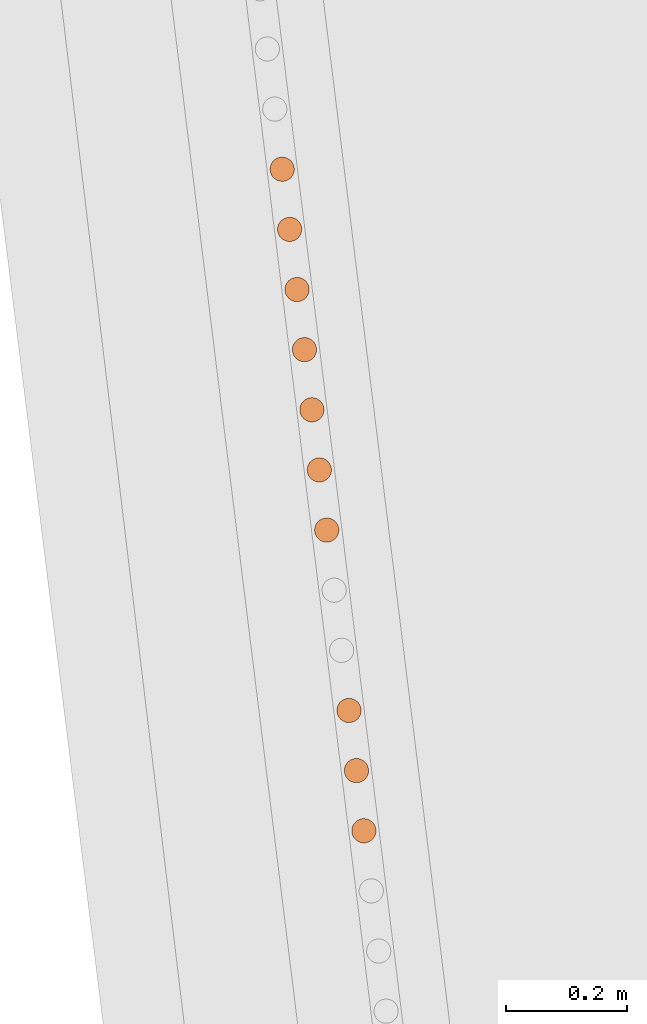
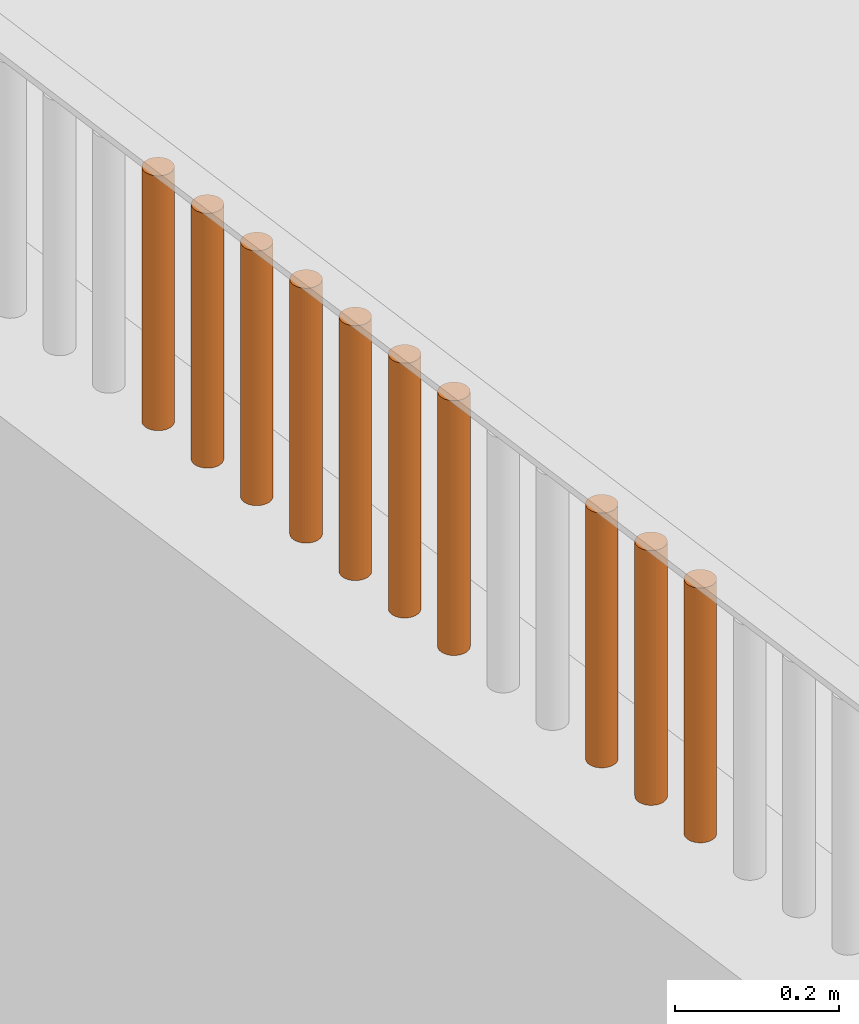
# One storey, part 127 of 1809: 10 proxies, 1 element without a shape of its own.
"""IFC2X3 building model written with IfcOpenShell, lengths in millimetres."""

from ifc_helpers import new_model, entity, si_unit, converted_unit, derived_unit, money_unit, direction, frame, origin_with_axes, place, context, subcontext, project, spatial, faceted_brep, source, transform, mapped, material, type_object, element, aggregate, save


model = new_model("IFC2X3")

# Units and contexts
model_context = context("Model", 3, precision=0.01, world=origin_with_axes(), true_north=direction((0.0, 1.0)))
body_context = subcontext(model_context, "Body", "Model", "MODEL_VIEW")
ifc_project = project(units=[si_unit("LENGTHUNIT", "METRE", prefix="MILLI"), si_unit("AREAUNIT", "SQUARE_METRE"), si_unit("VOLUMEUNIT", "CUBIC_METRE"), converted_unit("PLANEANGLEUNIT", "DEGREE", entity("IfcPlaneAngleMeasure", 0.0174532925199), si_unit("PLANEANGLEUNIT", "RADIAN"), dimensions=[0, 0, 0, 0, 0, 0, 0]), si_unit("SOLIDANGLEUNIT", "STERADIAN"), money_unit("EUR"), converted_unit("TIMEUNIT", "Year", entity("IfcTimeMeasure", 31556926.0), si_unit("TIMEUNIT", "SECOND"), dimensions=[0, 0, 1, 0, 0, 0, 0]), si_unit("MASSUNIT", "GRAM", prefix="KILO"), si_unit("THERMODYNAMICTEMPERATUREUNIT", "DEGREE_CELSIUS"), si_unit("LUMINOUSINTENSITYUNIT", "LUMEN"), si_unit("ENERGYUNIT", "JOULE", prefix="MEGA"), derived_unit("THERMALCONDUCTANCEUNIT", [(si_unit("POWERUNIT", "WATT"), 1), (si_unit("LENGTHUNIT", "METRE"), -1), (si_unit("THERMODYNAMICTEMPERATUREUNIT", "KELVIN"), -1)]), derived_unit("SPECIFICHEATCAPACITYUNIT", [(si_unit("ENERGYUNIT", "JOULE"), 1), (si_unit("MASSUNIT", "GRAM", prefix="KILO"), -1), (si_unit("THERMODYNAMICTEMPERATUREUNIT", "KELVIN"), -1)]), derived_unit("MASSDENSITYUNIT", [(si_unit("MASSUNIT", "GRAM", prefix="KILO"), 1), (si_unit("VOLUMEUNIT", "CUBIC_METRE"), -1)])], contexts=[model_context])

# Site, building, storey
site_placement = place(None, origin_with_axes())
site = spatial("IfcSite", under=ifc_project, at=site_placement, Name="Politse- ja Piirivalveameti ning Päästeameti ühishoone", CompositionType="ELEMENT")
building_placement = place(site_placement, origin_with_axes())
building = spatial("IfcBuilding", under=site, at=building_placement, Name="Politse- ja Piirivalveameti ning Päästeameti ühishoone", CompositionType="ELEMENT")
storey_placement = place(building_placement, origin_with_axes())
storey = spatial("IfcBuildingStorey", under=building, at=storey_placement, Name="Esimene korrus", CompositionType="ELEMENT", Elevation=0.0)

# Proxies
building_element_proxy_type_1 = type_object("IfcBuildingElementProxyType", Name="Railing Type", PredefinedType="NOTDEFINED")
proxy_1_placement = place(storey_placement, frame((-18956.5522504, -53688.4757966, 2100.0), z_axis=(0.0, 0.0, 1.0), x_axis=(1.0, 0.0, 0.0)))
proxy_1 = element("IfcBuildingElementProxy", 1, at=proxy_1_placement, inside=storey, type_object=building_element_proxy_type_1, Name="PIIRDEAED")
ifc_material = material(Name="ET-06_Teras - Konstruktsioon")
building_element_proxy_type_2 = type_object("IfcBuildingElementProxyType", Name="IfcBuildingElementProxy", PredefinedType="NOTDEFINED")
shared_shape_1 = source(origin_with_axes(), body_context, "Body", "Brep", [
    faceted_brep([(0.0, -20.0, 0.0), (3.47296355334, -19.6961550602, 0.0), (3.47296355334, -19.6961550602, 380.000012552), (0.0, -20.0, 380.000012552), (-3.47296355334, -19.6961550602, 0.0), (-6.84040286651, -18.7938524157, 0.0), (-10.0, -17.3205080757, 0.0), (-12.8557521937, -15.3208888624, 0.0), (-15.3208888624, -12.8557521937, 0.0), (-17.3205080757, -10.0, 0.0), (-18.7938524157, -6.84040286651, 0.0), (-19.6961550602, -3.47296355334, 0.0), (-20.0, 0.0, 0.0), (-19.6961550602, 3.47296355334, 0.0), (-18.7938524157, 6.84040286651, 0.0), (-17.3205080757, 10.0, 0.0), (-15.3208888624, 12.8557521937, 0.0), (-12.8557521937, 15.3208888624, 0.0), (-10.0, 17.3205080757, 0.0), (-6.84040286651, 18.7938524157, 0.0), (-3.47296355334, 19.6961550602, 0.0), (0.0, 20.0, 0.0), (3.47296355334, 19.6961550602, 0.0), (6.84040286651, 18.7938524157, 0.0), (10.0, 17.3205080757, 0.0), (12.8557521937, 15.3208888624, 0.0), (15.3208888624, 12.8557521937, 0.0), (17.3205080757, 10.0, 0.0), (18.7938524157, 6.84040286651, 0.0), (19.6961550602, 3.47296355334, 0.0), (20.0, 0.0, 0.0), (19.6961550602, -3.47296355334, 0.0), (18.7938524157, -6.84040286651, 0.0), (17.3205080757, -10.0, 0.0), (15.3208888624, -12.8557521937, 0.0), (12.8557521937, -15.3208888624, 0.0), (10.0, -17.3205080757, 0.0), (6.84040286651, -18.7938524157, 0.0), (6.84040286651, -18.7938524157, 380.000012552), (10.0, -17.3205080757, 380.000012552), (12.8557521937, -15.3208888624, 380.000012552), (15.3208888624, -12.8557521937, 380.000012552), (17.3205080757, -10.0, 380.000012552), (18.7938524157, -6.84040286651, 380.000012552), (19.6961550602, -3.47296355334, 380.000012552), (20.0, 0.0, 380.000012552), (19.6961550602, 3.47296355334, 380.000012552), (18.7938524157, 6.84040286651, 380.000012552), (17.3205080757, 10.0, 380.000012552), (15.3208888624, 12.8557521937, 380.000012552), (12.8557521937, 15.3208888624, 380.000012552), (10.0, 17.3205080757, 380.000012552), (6.84040286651, 18.7938524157, 380.000012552), (3.47296355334, 19.6961550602, 380.000012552), (0.0, 20.0, 380.000012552), (-3.47296355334, 19.6961550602, 380.000012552), (-6.84040286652, 18.7938524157, 380.000012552), (-10.0, 17.3205080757, 380.000012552), (-12.8557521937, 15.3208888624, 380.000012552), (-15.3208888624, 12.8557521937, 380.000012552), (-17.3205080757, 10.0, 380.000012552), (-18.7938524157, 6.84040286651, 380.000012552), (-19.6961550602, 3.47296355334, 380.000012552), (-20.0, 0.0, 380.000012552), (-19.6961550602, -3.47296355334, 380.000012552), (-18.7938524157, -6.84040286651, 380.000012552), (-17.3205080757, -10.0, 380.000012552), (-15.3208888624, -12.8557521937, 380.000012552), (-12.8557521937, -15.3208888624, 380.000012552), (-10.0, -17.3205080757, 380.000012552), (-6.84040286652, -18.7938524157, 380.000012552), (-3.47296355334, -19.6961550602, 380.000012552)], [[[0, 1, 2, 3]], [[0, 4, 5, 6, 7, 8, 9, 10, 11, 12, 13, 14, 15, 16, 17, 18, 19, 20, 21, 22, 23, 24, 25, 26, 27, 28, 29, 30, 31, 32, 33, 34, 35, 36, 37, 1]], [[1, 37, 38, 2]], [[3, 2, 38, 39, 40, 41, 42, 43, 44, 45, 46, 47, 48, 49, 50, 51, 52, 53, 54, 55, 56, 57, 58, 59, 60, 61, 62, 63, 64, 65, 66, 67, 68, 69, 70, 71]], [[4, 0, 3, 71]], [[5, 4, 71, 70]], [[6, 5, 70, 69]], [[7, 6, 69, 68]], [[8, 7, 68, 67]], [[9, 8, 67, 66]], [[10, 9, 66, 65]], [[11, 10, 65, 64]], [[12, 11, 64, 63]], [[13, 12, 63, 62]], [[14, 13, 62, 61]], [[15, 14, 61, 60]], [[16, 15, 60, 59]], [[17, 16, 59, 58]], [[18, 17, 58, 57]], [[19, 18, 57, 56]], [[20, 19, 56, 55]], [[21, 20, 55, 54]], [[22, 21, 54, 53]], [[23, 22, 53, 52]], [[24, 23, 52, 51]], [[25, 24, 51, 50]], [[26, 25, 50, 49]], [[27, 26, 49, 48]], [[28, 27, 48, 47]], [[29, 28, 47, 46]], [[30, 29, 46, 45]], [[31, 30, 45, 44]], [[32, 31, 44, 43]], [[33, 32, 43, 42]], [[34, 33, 42, 41]], [[35, 34, 41, 40]], [[36, 35, 40, 39]], [[37, 36, 39, 38]]]),
])
proxy_2_placement = place(proxy_1_placement, frame((-4024.53611984, 31770.8578327, -1.25517001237e-05), z_axis=(0.0, 0.0, 1.0), x_axis=(1.0, 0.0, 0.0)))
proxy_2 = element("IfcBuildingElementProxy", 2, at=proxy_2_placement, type_object=building_element_proxy_type_2, material=ifc_material, Name="BALUSTER - 001", context=body_context, shape_type="MappedRepresentation", body=[
    mapped(shared_shape_1, transform((0.0, 0.0, 0.0), x_axis=(0.992468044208, 0.122503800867, 0.0), y_axis=(-0.122503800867, 0.992468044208, 0.0), z_axis=(0.0, 0.0, 1.0))),
])
shared_shape_2 = source(origin_with_axes(), body_context, "Body", "Brep", [
    faceted_brep([(0.0, -20.0, 0.0), (3.47296355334, -19.6961550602, 0.0), (3.47296355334, -19.6961550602, 380.000012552), (0.0, -20.0, 380.000012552), (-3.47296355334, -19.6961550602, 0.0), (-6.84040286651, -18.7938524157, 0.0), (-10.0, -17.3205080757, 0.0), (-12.8557521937, -15.3208888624, 0.0), (-15.3208888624, -12.8557521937, 0.0), (-17.3205080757, -10.0, 0.0), (-18.7938524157, -6.84040286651, 0.0), (-19.6961550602, -3.47296355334, 0.0), (-20.0, 0.0, 0.0), (-19.6961550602, 3.47296355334, 0.0), (-18.7938524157, 6.84040286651, 0.0), (-17.3205080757, 10.0, 0.0), (-15.3208888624, 12.8557521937, 0.0), (-12.8557521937, 15.3208888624, 0.0), (-10.0, 17.3205080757, 0.0), (-6.84040286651, 18.7938524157, 0.0), (-3.47296355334, 19.6961550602, 0.0), (0.0, 20.0, 0.0), (3.47296355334, 19.6961550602, 0.0), (6.84040286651, 18.7938524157, 0.0), (10.0, 17.3205080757, 0.0), (12.8557521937, 15.3208888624, 0.0), (15.3208888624, 12.8557521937, 0.0), (17.3205080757, 10.0, 0.0), (18.7938524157, 6.84040286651, 0.0), (19.6961550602, 3.47296355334, 0.0), (20.0, 0.0, 0.0), (19.6961550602, -3.47296355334, 0.0), (18.7938524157, -6.84040286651, 0.0), (17.3205080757, -10.0, 0.0), (15.3208888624, -12.8557521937, 0.0), (12.8557521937, -15.3208888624, 0.0), (10.0, -17.3205080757, 0.0), (6.84040286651, -18.7938524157, 0.0), (6.84040286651, -18.7938524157, 380.000012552), (10.0, -17.3205080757, 380.000012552), (12.8557521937, -15.3208888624, 380.000012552), (15.3208888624, -12.8557521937, 380.000012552), (17.3205080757, -10.0, 380.000012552), (18.7938524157, -6.84040286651, 380.000012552), (19.6961550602, -3.47296355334, 380.000012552), (20.0, 0.0, 380.000012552), (19.6961550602, 3.47296355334, 380.000012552), (18.7938524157, 6.84040286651, 380.000012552), (17.3205080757, 10.0, 380.000012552), (15.3208888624, 12.8557521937, 380.000012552), (12.8557521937, 15.3208888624, 380.000012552), (10.0, 17.3205080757, 380.000012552), (6.84040286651, 18.7938524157, 380.000012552), (3.47296355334, 19.6961550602, 380.000012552), (0.0, 20.0, 380.000012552), (-3.47296355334, 19.6961550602, 380.000012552), (-6.84040286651, 18.7938524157, 380.000012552), (-10.0, 17.3205080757, 380.000012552), (-12.8557521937, 15.3208888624, 380.000012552), (-15.3208888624, 12.8557521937, 380.000012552), (-17.3205080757, 10.0, 380.000012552), (-18.7938524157, 6.84040286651, 380.000012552), (-19.6961550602, 3.47296355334, 380.000012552), (-20.0, 0.0, 380.000012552), (-19.6961550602, -3.47296355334, 380.000012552), (-18.7938524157, -6.84040286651, 380.000012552), (-17.3205080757, -10.0, 380.000012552), (-15.3208888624, -12.8557521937, 380.000012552), (-12.8557521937, -15.3208888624, 380.000012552), (-10.0, -17.3205080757, 380.000012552), (-6.84040286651, -18.7938524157, 380.000012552), (-3.47296355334, -19.6961550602, 380.000012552)], [[[0, 1, 2, 3]], [[0, 4, 5, 6, 7, 8, 9, 10, 11, 12, 13, 14, 15, 16, 17, 18, 19, 20, 21, 22, 23, 24, 25, 26, 27, 28, 29, 30, 31, 32, 33, 34, 35, 36, 37, 1]], [[1, 37, 38, 2]], [[3, 2, 38, 39, 40, 41, 42, 43, 44, 45, 46, 47, 48, 49, 50, 51, 52, 53, 54, 55, 56, 57, 58, 59, 60, 61, 62, 63, 64, 65, 66, 67, 68, 69, 70, 71]], [[4, 0, 3, 71]], [[5, 4, 71, 70]], [[6, 5, 70, 69]], [[7, 6, 69, 68]], [[8, 7, 68, 67]], [[9, 8, 67, 66]], [[10, 9, 66, 65]], [[11, 10, 65, 64]], [[12, 11, 64, 63]], [[13, 12, 63, 62]], [[14, 13, 62, 61]], [[15, 14, 61, 60]], [[16, 15, 60, 59]], [[17, 16, 59, 58]], [[18, 17, 58, 57]], [[19, 18, 57, 56]], [[20, 19, 56, 55]], [[21, 20, 55, 54]], [[22, 21, 54, 53]], [[23, 22, 53, 52]], [[24, 23, 52, 51]], [[25, 24, 51, 50]], [[26, 25, 50, 49]], [[27, 26, 49, 48]], [[28, 27, 48, 47]], [[29, 28, 47, 46]], [[30, 29, 46, 45]], [[31, 30, 45, 44]], [[32, 31, 44, 43]], [[33, 32, 43, 42]], [[34, 33, 42, 41]], [[35, 34, 41, 40]], [[36, 35, 40, 39]], [[37, 36, 39, 38]]]),
])
proxy_3_placement = place(proxy_1_placement, frame((-3902.05907071, 30778.6065184, -1.25517001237e-05), z_axis=(0.0, 0.0, 1.0), x_axis=(1.0, 0.0, 0.0)))
proxy_3 = element("IfcBuildingElementProxy", 3, at=proxy_3_placement, type_object=building_element_proxy_type_2, material=ifc_material, Name="BALUSTER - 001", context=body_context, shape_type="MappedRepresentation", body=[
    mapped(shared_shape_2, transform((0.0, 0.0, 0.0), x_axis=(0.992468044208, 0.122503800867, 0.0), y_axis=(-0.122503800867, 0.992468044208, 0.0), z_axis=(0.0, 0.0, 1.0))),
])
shared_shape_3 = source(origin_with_axes(), body_context, "Body", "Brep", [
    faceted_brep([(0.0, -20.0, 0.0), (3.47296355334, -19.6961550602, 0.0), (3.47296355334, -19.6961550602, 380.000012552), (0.0, -20.0, 380.000012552), (-3.47296355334, -19.6961550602, 0.0), (-6.84040286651, -18.7938524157, 0.0), (-10.0, -17.3205080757, 0.0), (-12.8557521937, -15.3208888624, 0.0), (-15.3208888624, -12.8557521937, 0.0), (-17.3205080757, -10.0, 0.0), (-18.7938524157, -6.84040286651, 0.0), (-19.6961550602, -3.47296355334, 0.0), (-20.0, 0.0, 0.0), (-19.6961550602, 3.47296355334, 0.0), (-18.7938524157, 6.84040286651, 0.0), (-17.3205080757, 10.0, 0.0), (-15.3208888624, 12.8557521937, 0.0), (-12.8557521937, 15.3208888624, 0.0), (-10.0, 17.3205080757, 0.0), (-6.84040286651, 18.7938524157, 0.0), (-3.47296355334, 19.6961550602, 0.0), (0.0, 20.0, 0.0), (3.47296355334, 19.6961550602, 0.0), (6.84040286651, 18.7938524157, 0.0), (10.0, 17.3205080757, 0.0), (12.8557521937, 15.3208888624, 0.0), (15.3208888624, 12.8557521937, 0.0), (17.3205080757, 10.0, 0.0), (18.7938524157, 6.84040286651, 0.0), (19.6961550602, 3.47296355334, 0.0), (20.0, 0.0, 0.0), (19.6961550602, -3.47296355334, 0.0), (18.7938524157, -6.84040286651, 0.0), (17.3205080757, -10.0, 0.0), (15.3208888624, -12.8557521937, 0.0), (12.8557521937, -15.3208888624, 0.0), (10.0, -17.3205080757, 0.0), (6.84040286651, -18.7938524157, 0.0), (6.84040286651, -18.7938524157, 380.000012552), (10.0, -17.3205080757, 380.000012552), (12.8557521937, -15.3208888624, 380.000012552), (15.3208888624, -12.8557521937, 380.000012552), (17.3205080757, -10.0, 380.000012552), (18.7938524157, -6.84040286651, 380.000012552), (19.6961550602, -3.47296355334, 380.000012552), (20.0, 0.0, 380.000012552), (19.6961550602, 3.47296355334, 380.000012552), (18.7938524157, 6.84040286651, 380.000012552), (17.3205080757, 10.0, 380.000012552), (15.3208888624, 12.8557521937, 380.000012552), (12.8557521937, 15.3208888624, 380.000012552), (10.0, 17.3205080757, 380.000012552), (6.84040286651, 18.7938524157, 380.000012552), (3.47296355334, 19.6961550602, 380.000012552), (0.0, 20.0, 380.000012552), (-3.47296355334, 19.6961550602, 380.000012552), (-6.84040286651, 18.7938524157, 380.000012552), (-10.0, 17.3205080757, 380.000012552), (-12.8557521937, 15.3208888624, 380.000012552), (-15.3208888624, 12.8557521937, 380.000012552), (-17.3205080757, 10.0, 380.000012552), (-18.7938524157, 6.84040286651, 380.000012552), (-19.6961550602, 3.47296355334, 380.000012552), (-20.0, 0.0, 380.000012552), (-19.6961550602, -3.47296355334, 380.000012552), (-18.7938524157, -6.84040286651, 380.000012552), (-17.3205080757, -10.0, 380.000012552), (-15.3208888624, -12.8557521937, 380.000012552), (-12.8557521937, -15.3208888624, 380.000012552), (-10.0, -17.3205080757, 380.000012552), (-6.84040286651, -18.7938524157, 380.000012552), (-3.47296355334, -19.6961550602, 380.000012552)], [[[0, 1, 2, 3]], [[0, 4, 5, 6, 7, 8, 9, 10, 11, 12, 13, 14, 15, 16, 17, 18, 19, 20, 21, 22, 23, 24, 25, 26, 27, 28, 29, 30, 31, 32, 33, 34, 35, 36, 37, 1]], [[1, 37, 38, 2]], [[3, 2, 38, 39, 40, 41, 42, 43, 44, 45, 46, 47, 48, 49, 50, 51, 52, 53, 54, 55, 56, 57, 58, 59, 60, 61, 62, 63, 64, 65, 66, 67, 68, 69, 70, 71]], [[4, 0, 3, 71]], [[5, 4, 71, 70]], [[6, 5, 70, 69]], [[7, 6, 69, 68]], [[8, 7, 68, 67]], [[9, 8, 67, 66]], [[10, 9, 66, 65]], [[11, 10, 65, 64]], [[12, 11, 64, 63]], [[13, 12, 63, 62]], [[14, 13, 62, 61]], [[15, 14, 61, 60]], [[16, 15, 60, 59]], [[17, 16, 59, 58]], [[18, 17, 58, 57]], [[19, 18, 57, 56]], [[20, 19, 56, 55]], [[21, 20, 55, 54]], [[22, 21, 54, 53]], [[23, 22, 53, 52]], [[24, 23, 52, 51]], [[25, 24, 51, 50]], [[26, 25, 50, 49]], [[27, 26, 49, 48]], [[28, 27, 48, 47]], [[29, 28, 47, 46]], [[30, 29, 46, 45]], [[31, 30, 45, 44]], [[32, 31, 44, 43]], [[33, 32, 43, 42]], [[34, 33, 42, 41]], [[35, 34, 41, 40]], [[36, 35, 40, 39]], [[37, 36, 39, 38]]]),
])
proxy_4_placement = place(proxy_1_placement, frame((-3963.29759527, 31274.7321756, -1.25517001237e-05), z_axis=(0.0, 0.0, 1.0), x_axis=(1.0, 0.0, 0.0)))
proxy_4 = element("IfcBuildingElementProxy", 4, at=proxy_4_placement, type_object=building_element_proxy_type_2, material=ifc_material, Name="BALUSTER - 001", context=body_context, shape_type="MappedRepresentation", body=[
    mapped(shared_shape_3, transform((0.0, 0.0, 0.0), x_axis=(0.992468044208, 0.122503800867, 0.0), y_axis=(-0.122503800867, 0.992468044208, 0.0), z_axis=(0.0, 0.0, 1.0))),
])
proxy_5_placement = place(proxy_1_placement, frame((-3975.54530019, 31373.957307, -1.25517001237e-05), z_axis=(0.0, 0.0, 1.0), x_axis=(1.0, 0.0, 0.0)))
proxy_5 = element("IfcBuildingElementProxy", 5, at=proxy_5_placement, type_object=building_element_proxy_type_2, material=ifc_material, Name="BALUSTER - 001", context=body_context, shape_type="MappedRepresentation", body=[
    mapped(shared_shape_3, transform((0.0, 0.0, 0.0), x_axis=(0.992468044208, 0.122503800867, 0.0), y_axis=(-0.122503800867, 0.992468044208, 0.0), z_axis=(0.0, 0.0, 1.0))),
])
proxy_6_placement = place(proxy_1_placement, frame((-3987.7930051, 31473.1824384, -1.25517001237e-05), z_axis=(0.0, 0.0, 1.0), x_axis=(1.0, 0.0, 0.0)))
proxy_6 = element("IfcBuildingElementProxy", 6, at=proxy_6_placement, type_object=building_element_proxy_type_2, material=ifc_material, Name="BALUSTER - 001", context=body_context, shape_type="MappedRepresentation", body=[
    mapped(shared_shape_3, transform((0.0, 0.0, 0.0), x_axis=(0.992468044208, 0.122503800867, 0.0), y_axis=(-0.122503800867, 0.992468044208, 0.0), z_axis=(0.0, 0.0, 1.0))),
])
proxy_7_placement = place(proxy_1_placement, frame((-4012.28841492, 31671.6327013, -1.25517001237e-05), z_axis=(0.0, 0.0, 1.0), x_axis=(1.0, 0.0, 0.0)))
proxy_7 = element("IfcBuildingElementProxy", 7, at=proxy_7_placement, type_object=building_element_proxy_type_2, material=ifc_material, Name="BALUSTER - 001", context=body_context, shape_type="MappedRepresentation", body=[
    mapped(shared_shape_3, transform((0.0, 0.0, 0.0), x_axis=(0.992468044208, 0.122503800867, 0.0), y_axis=(-0.122503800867, 0.992468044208, 0.0), z_axis=(0.0, 0.0, 1.0))),
])
proxy_8_placement = place(proxy_1_placement, frame((-4036.78382475, 31870.0829641, -1.25517001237e-05), z_axis=(0.0, 0.0, 1.0), x_axis=(1.0, 0.0, 0.0)))
proxy_8 = element("IfcBuildingElementProxy", 8, at=proxy_8_placement, type_object=building_element_proxy_type_2, material=ifc_material, Name="BALUSTER - 001", context=body_context, shape_type="MappedRepresentation", body=[
    mapped(shared_shape_3, transform((0.0, 0.0, 0.0), x_axis=(0.992468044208, 0.122503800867, 0.0), y_axis=(-0.122503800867, 0.992468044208, 0.0), z_axis=(0.0, 0.0, 1.0))),
])
shared_shape_4 = source(origin_with_axes(), body_context, "Body", "Brep", [
    faceted_brep([(0.0, -20.0, 0.0), (3.47296355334, -19.6961550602, 0.0), (3.47296355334, -19.6961550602, 380.000012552), (0.0, -20.0, 380.000012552), (-3.47296355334, -19.6961550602, 0.0), (-6.84040286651, -18.7938524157, 0.0), (-10.0, -17.3205080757, 0.0), (-12.8557521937, -15.3208888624, 0.0), (-15.3208888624, -12.8557521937, 0.0), (-17.3205080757, -10.0, 0.0), (-18.7938524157, -6.84040286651, 0.0), (-19.6961550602, -3.47296355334, 0.0), (-20.0, 0.0, 0.0), (-19.6961550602, 3.47296355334, 0.0), (-18.7938524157, 6.84040286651, 0.0), (-17.3205080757, 10.0, 0.0), (-15.3208888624, 12.8557521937, 0.0), (-12.8557521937, 15.3208888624, 0.0), (-10.0, 17.3205080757, 0.0), (-6.84040286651, 18.7938524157, 0.0), (-3.47296355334, 19.6961550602, 0.0), (0.0, 20.0, 0.0), (3.47296355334, 19.6961550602, 0.0), (6.84040286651, 18.7938524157, 0.0), (10.0, 17.3205080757, 0.0), (12.8557521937, 15.3208888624, 0.0), (15.3208888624, 12.8557521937, 0.0), (17.3205080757, 10.0, 0.0), (18.7938524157, 6.84040286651, 0.0), (19.6961550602, 3.47296355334, 0.0), (20.0, 0.0, 0.0), (19.6961550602, -3.47296355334, 0.0), (18.7938524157, -6.84040286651, 0.0), (17.3205080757, -10.0, 0.0), (15.3208888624, -12.8557521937, 0.0), (12.8557521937, -15.3208888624, 0.0), (10.0, -17.3205080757, 0.0), (6.84040286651, -18.7938524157, 0.0), (6.84040286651, -18.7938524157, 380.000012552), (10.0, -17.3205080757, 380.000012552), (12.8557521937, -15.3208888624, 380.000012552), (15.3208888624, -12.8557521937, 380.000012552), (17.3205080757, -10.0, 380.000012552), (18.7938524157, -6.84040286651, 380.000012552), (19.6961550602, -3.47296355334, 380.000012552), (20.0, 0.0, 380.000012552), (19.6961550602, 3.47296355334, 380.000012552), (18.7938524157, 6.84040286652, 380.000012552), (17.3205080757, 10.0, 380.000012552), (15.3208888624, 12.8557521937, 380.000012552), (12.8557521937, 15.3208888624, 380.000012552), (10.0, 17.3205080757, 380.000012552), (6.84040286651, 18.7938524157, 380.000012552), (3.47296355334, 19.6961550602, 380.000012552), (0.0, 20.0, 380.000012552), (-3.47296355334, 19.6961550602, 380.000012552), (-6.84040286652, 18.7938524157, 380.000012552), (-10.0, 17.3205080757, 380.000012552), (-12.8557521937, 15.3208888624, 380.000012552), (-15.3208888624, 12.8557521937, 380.000012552), (-17.3205080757, 10.0, 380.000012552), (-18.7938524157, 6.84040286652, 380.000012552), (-19.6961550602, 3.47296355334, 380.000012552), (-20.0, 0.0, 380.000012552), (-19.6961550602, -3.47296355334, 380.000012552), (-18.7938524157, -6.84040286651, 380.000012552), (-17.3205080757, -10.0, 380.000012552), (-15.3208888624, -12.8557521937, 380.000012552), (-12.8557521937, -15.3208888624, 380.000012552), (-10.0, -17.3205080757, 380.000012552), (-6.84040286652, -18.7938524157, 380.000012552), (-3.47296355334, -19.6961550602, 380.000012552)], [[[0, 1, 2, 3]], [[0, 4, 5, 6, 7, 8, 9, 10, 11, 12, 13, 14, 15, 16, 17, 18, 19, 20, 21, 22, 23, 24, 25, 26, 27, 28, 29, 30, 31, 32, 33, 34, 35, 36, 37, 1]], [[1, 37, 38, 2]], [[3, 2, 38, 39, 40, 41, 42, 43, 44, 45, 46, 47, 48, 49, 50, 51, 52, 53, 54, 55, 56, 57, 58, 59, 60, 61, 62, 63, 64, 65, 66, 67, 68, 69, 70, 71]], [[4, 0, 3, 71]], [[5, 4, 71, 70]], [[6, 5, 70, 69]], [[7, 6, 69, 68]], [[8, 7, 68, 67]], [[9, 8, 67, 66]], [[10, 9, 66, 65]], [[11, 10, 65, 64]], [[12, 11, 64, 63]], [[13, 12, 63, 62]], [[14, 13, 62, 61]], [[15, 14, 61, 60]], [[16, 15, 60, 59]], [[17, 16, 59, 58]], [[18, 17, 58, 57]], [[19, 18, 57, 56]], [[20, 19, 56, 55]], [[21, 20, 55, 54]], [[22, 21, 54, 53]], [[23, 22, 53, 52]], [[24, 23, 52, 51]], [[25, 24, 51, 50]], [[26, 25, 50, 49]], [[27, 26, 49, 48]], [[28, 27, 48, 47]], [[29, 28, 47, 46]], [[30, 29, 46, 45]], [[31, 30, 45, 44]], [[32, 31, 44, 43]], [[33, 32, 43, 42]], [[34, 33, 42, 41]], [[35, 34, 41, 40]], [[36, 35, 40, 39]], [[37, 36, 39, 38]]]),
])
proxy_9_placement = place(proxy_1_placement, frame((-3914.30677562, 30877.8316499, -1.25517001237e-05), z_axis=(0.0, 0.0, 1.0), x_axis=(1.0, 0.0, 0.0)))
proxy_9 = element("IfcBuildingElementProxy", 9, at=proxy_9_placement, type_object=building_element_proxy_type_2, material=ifc_material, Name="BALUSTER - 001", context=body_context, shape_type="MappedRepresentation", body=[
    mapped(shared_shape_4, transform((0.0, 0.0, 0.0), x_axis=(0.992468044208, 0.122503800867, 0.0), y_axis=(-0.122503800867, 0.992468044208, 0.0), z_axis=(0.0, 0.0, 1.0))),
])
shared_shape_5 = source(origin_with_axes(), body_context, "Body", "Brep", [
    faceted_brep([(0.0, -20.0, 0.0), (3.47296355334, -19.6961550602, 0.0), (3.47296355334, -19.6961550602, 380.000012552), (0.0, -20.0, 380.000012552), (-3.47296355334, -19.6961550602, 0.0), (-6.84040286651, -18.7938524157, 0.0), (-10.0, -17.3205080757, 0.0), (-12.8557521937, -15.3208888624, 0.0), (-15.3208888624, -12.8557521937, 0.0), (-17.3205080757, -10.0, 0.0), (-18.7938524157, -6.84040286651, 0.0), (-19.6961550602, -3.47296355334, 0.0), (-20.0, 0.0, 0.0), (-19.6961550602, 3.47296355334, 0.0), (-18.7938524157, 6.84040286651, 0.0), (-17.3205080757, 10.0, 0.0), (-15.3208888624, 12.8557521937, 0.0), (-12.8557521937, 15.3208888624, 0.0), (-10.0, 17.3205080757, 0.0), (-6.84040286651, 18.7938524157, 0.0), (-3.47296355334, 19.6961550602, 0.0), (0.0, 20.0, 0.0), (3.47296355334, 19.6961550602, 0.0), (6.84040286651, 18.7938524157, 0.0), (10.0, 17.3205080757, 0.0), (12.8557521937, 15.3208888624, 0.0), (15.3208888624, 12.8557521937, 0.0), (17.3205080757, 10.0, 0.0), (18.7938524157, 6.84040286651, 0.0), (19.6961550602, 3.47296355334, 0.0), (20.0, 0.0, 0.0), (19.6961550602, -3.47296355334, 0.0), (18.7938524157, -6.84040286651, 0.0), (17.3205080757, -10.0, 0.0), (15.3208888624, -12.8557521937, 0.0), (12.8557521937, -15.3208888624, 0.0), (10.0, -17.3205080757, 0.0), (6.84040286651, -18.7938524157, 0.0), (6.84040286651, -18.7938524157, 380.000012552), (10.0, -17.3205080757, 380.000012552), (12.8557521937, -15.3208888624, 380.000012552), (15.3208888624, -12.8557521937, 380.000012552), (17.3205080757, -10.0, 380.000012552), (18.7938524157, -6.84040286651, 380.000012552), (19.6961550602, -3.47296355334, 380.000012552), (20.0, 0.0, 380.000012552), (19.6961550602, 3.47296355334, 380.000012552), (18.7938524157, 6.84040286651, 380.000012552), (17.3205080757, 10.0, 380.000012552), (15.3208888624, 12.8557521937, 380.000012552), (12.8557521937, 15.3208888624, 380.000012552), (10.0, 17.3205080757, 380.000012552), (6.84040286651, 18.7938524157, 380.000012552), (3.47296355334, 19.6961550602, 380.000012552), (0.0, 20.0, 380.000012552), (-3.47296355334, 19.6961550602, 380.000012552), (-6.84040286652, 18.7938524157, 380.000012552), (-10.0, 17.3205080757, 380.000012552), (-12.8557521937, 15.3208888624, 380.000012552), (-15.3208888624, 12.8557521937, 380.000012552), (-17.3205080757, 10.0, 380.000012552), (-18.7938524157, 6.84040286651, 380.000012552), (-19.6961550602, 3.47296355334, 380.000012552), (-20.0, 0.0, 380.000012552), (-19.6961550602, -3.47296355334, 380.000012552), (-18.7938524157, -6.84040286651, 380.000012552), (-17.3205080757, -10.0, 380.000012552), (-15.3208888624, -12.8557521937, 380.000012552), (-12.8557521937, -15.3208888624, 380.000012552), (-10.0, -17.3205080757, 380.000012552), (-6.84040286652, -18.7938524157, 380.000012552), (-3.47296355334, -19.6961550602, 380.000012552)], [[[0, 1, 2, 3]], [[0, 4, 5, 6, 7, 8, 9, 10, 11, 12, 13, 14, 15, 16, 17, 18, 19, 20, 21, 22, 23, 24, 25, 26, 27, 28, 29, 30, 31, 32, 33, 34, 35, 36, 37, 1]], [[1, 37, 38, 2]], [[3, 2, 38, 39, 40, 41, 42, 43, 44, 45, 46, 47, 48, 49, 50, 51, 52, 53, 54, 55, 56, 57, 58, 59, 60, 61, 62, 63, 64, 65, 66, 67, 68, 69, 70, 71]], [[4, 0, 3, 71]], [[5, 4, 71, 70]], [[6, 5, 70, 69]], [[7, 6, 69, 68]], [[8, 7, 68, 67]], [[9, 8, 67, 66]], [[10, 9, 66, 65]], [[11, 10, 65, 64]], [[12, 11, 64, 63]], [[13, 12, 63, 62]], [[14, 13, 62, 61]], [[15, 14, 61, 60]], [[16, 15, 60, 59]], [[17, 16, 59, 58]], [[18, 17, 58, 57]], [[19, 18, 57, 56]], [[20, 19, 56, 55]], [[21, 20, 55, 54]], [[22, 21, 54, 53]], [[23, 22, 53, 52]], [[24, 23, 52, 51]], [[25, 24, 51, 50]], [[26, 25, 50, 49]], [[27, 26, 49, 48]], [[28, 27, 48, 47]], [[29, 28, 47, 46]], [[30, 29, 46, 45]], [[31, 30, 45, 44]], [[32, 31, 44, 43]], [[33, 32, 43, 42]], [[34, 33, 42, 41]], [[35, 34, 41, 40]], [[36, 35, 40, 39]], [[37, 36, 39, 38]]]),
])
proxy_10_placement = place(proxy_1_placement, frame((-4000.04071001, 31572.4075698, -1.25517001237e-05), z_axis=(0.0, 0.0, 1.0), x_axis=(1.0, 0.0, 0.0)))
proxy_10 = element("IfcBuildingElementProxy", 10, at=proxy_10_placement, type_object=building_element_proxy_type_2, material=ifc_material, Name="BALUSTER - 001", context=body_context, shape_type="MappedRepresentation", body=[
    mapped(shared_shape_5, transform((0.0, 0.0, 0.0), x_axis=(0.992468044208, 0.122503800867, 0.0), y_axis=(-0.122503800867, 0.992468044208, 0.0), z_axis=(0.0, 0.0, 1.0))),
])
shared_shape_6 = source(origin_with_axes(), body_context, "Body", "Brep", [
    faceted_brep([(0.0, -20.0, 0.0), (3.47296355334, -19.6961550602, 0.0), (3.47296355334, -19.6961550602, 380.000012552), (0.0, -20.0, 380.000012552), (-3.47296355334, -19.6961550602, 0.0), (-6.84040286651, -18.7938524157, 0.0), (-10.0, -17.3205080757, 0.0), (-12.8557521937, -15.3208888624, 0.0), (-15.3208888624, -12.8557521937, 0.0), (-17.3205080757, -10.0, 0.0), (-18.7938524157, -6.84040286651, 0.0), (-19.6961550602, -3.47296355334, 0.0), (-20.0, 0.0, 0.0), (-19.6961550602, 3.47296355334, 0.0), (-18.7938524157, 6.84040286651, 0.0), (-17.3205080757, 10.0, 0.0), (-15.3208888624, 12.8557521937, 0.0), (-12.8557521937, 15.3208888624, 0.0), (-10.0, 17.3205080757, 0.0), (-6.84040286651, 18.7938524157, 0.0), (-3.47296355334, 19.6961550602, 0.0), (0.0, 20.0, 0.0), (3.47296355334, 19.6961550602, 0.0), (6.84040286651, 18.7938524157, 0.0), (10.0, 17.3205080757, 0.0), (12.8557521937, 15.3208888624, 0.0), (15.3208888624, 12.8557521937, 0.0), (17.3205080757, 10.0, 0.0), (18.7938524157, 6.84040286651, 0.0), (19.6961550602, 3.47296355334, 0.0), (20.0, 0.0, 0.0), (19.6961550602, -3.47296355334, 0.0), (18.7938524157, -6.84040286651, 0.0), (17.3205080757, -10.0, 0.0), (15.3208888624, -12.8557521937, 0.0), (12.8557521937, -15.3208888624, 0.0), (10.0, -17.3205080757, 0.0), (6.84040286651, -18.7938524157, 0.0), (6.84040286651, -18.7938524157, 380.000012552), (10.0, -17.3205080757, 380.000012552), (12.8557521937, -15.3208888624, 380.000012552), (15.3208888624, -12.8557521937, 380.000012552), (17.3205080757, -10.0, 380.000012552), (18.7938524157, -6.84040286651, 380.000012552), (19.6961550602, -3.47296355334, 380.000012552), (20.0, 0.0, 380.000012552), (19.6961550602, 3.47296355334, 380.000012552), (18.7938524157, 6.84040286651, 380.000012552), (17.3205080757, 10.0, 380.000012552), (15.3208888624, 12.8557521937, 380.000012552), (12.8557521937, 15.3208888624, 380.000012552), (10.0, 17.3205080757, 380.000012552), (6.84040286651, 18.7938524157, 380.000012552), (3.47296355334, 19.6961550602, 380.000012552), (0.0, 20.0, 380.000012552), (-3.47296355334, 19.6961550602, 380.000012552), (-6.84040286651, 18.7938524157, 380.000012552), (-10.0, 17.3205080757, 380.000012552), (-12.8557521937, 15.3208888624, 380.000012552), (-15.3208888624, 12.8557521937, 380.000012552), (-17.3205080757, 10.0, 380.000012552), (-18.7938524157, 6.84040286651, 380.000012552), (-19.6961550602, 3.47296355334, 380.000012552), (-20.0, 0.0, 380.000012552), (-19.6961550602, -3.47296355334, 380.000012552), (-18.7938524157, -6.84040286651, 380.000012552), (-17.3205080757, -10.0, 380.000012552), (-15.3208888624, -12.8557521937, 380.000012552), (-12.8557521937, -15.3208888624, 380.000012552), (-10.0, -17.3205080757, 380.000012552), (-6.84040286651, -18.7938524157, 380.000012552), (-3.47296355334, -19.6961550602, 380.000012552)], [[[0, 1, 2, 3]], [[0, 4, 5, 6, 7, 8, 9, 10, 11, 12, 13, 14, 15, 16, 17, 18, 19, 20, 21, 22, 23, 24, 25, 26, 27, 28, 29, 30, 31, 32, 33, 34, 35, 36, 37, 1]], [[1, 37, 38, 2]], [[3, 2, 38, 39, 40, 41, 42, 43, 44, 45, 46, 47, 48, 49, 50, 51, 52, 53, 54, 55, 56, 57, 58, 59, 60, 61, 62, 63, 64, 65, 66, 67, 68, 69, 70, 71]], [[4, 0, 3, 71]], [[5, 4, 71, 70]], [[6, 5, 70, 69]], [[7, 6, 69, 68]], [[8, 7, 68, 67]], [[9, 8, 67, 66]], [[10, 9, 66, 65]], [[11, 10, 65, 64]], [[12, 11, 64, 63]], [[13, 12, 63, 62]], [[14, 13, 62, 61]], [[15, 14, 61, 60]], [[16, 15, 60, 59]], [[17, 16, 59, 58]], [[18, 17, 58, 57]], [[19, 18, 57, 56]], [[20, 19, 56, 55]], [[21, 20, 55, 54]], [[22, 21, 54, 53]], [[23, 22, 53, 52]], [[24, 23, 52, 51]], [[25, 24, 51, 50]], [[26, 25, 50, 49]], [[27, 26, 49, 48]], [[28, 27, 48, 47]], [[29, 28, 47, 46]], [[30, 29, 46, 45]], [[31, 30, 45, 44]], [[32, 31, 44, 43]], [[33, 32, 43, 42]], [[34, 33, 42, 41]], [[35, 34, 41, 40]], [[36, 35, 40, 39]], [[37, 36, 39, 38]]]),
])
proxy_11_placement = place(proxy_1_placement, frame((-3926.55448053, 30977.0567813, -1.25517001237e-05), z_axis=(0.0, 0.0, 1.0), x_axis=(1.0, 0.0, 0.0)))
proxy_11 = element("IfcBuildingElementProxy", 11, at=proxy_11_placement, type_object=building_element_proxy_type_2, material=ifc_material, Name="BALUSTER - 001", context=body_context, shape_type="MappedRepresentation", body=[
    mapped(shared_shape_6, transform((0.0, 0.0, 0.0), x_axis=(0.992468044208, 0.122503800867, 0.0), y_axis=(-0.122503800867, 0.992468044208, 0.0), z_axis=(0.0, 0.0, 1.0))),
])
aggregate(proxy_1, [proxy_3, proxy_9, proxy_11, proxy_4, proxy_5, proxy_6, proxy_10, proxy_7, proxy_2, proxy_8])

save(model, "model.ifc")
